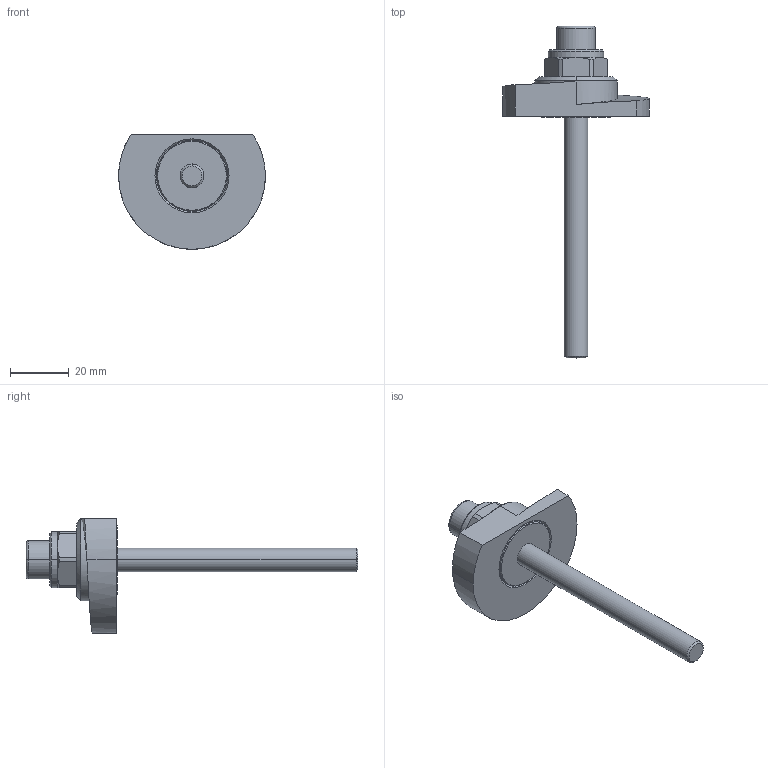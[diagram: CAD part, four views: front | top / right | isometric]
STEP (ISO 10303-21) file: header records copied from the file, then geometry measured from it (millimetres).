
FILE_DESCRIPTION (( 'STEP AP214' ), '1' );
FILE_NAME ('918.1-50-SKS-R-82.step', '2024-05-15T13:03:23', ( '' ), ( '' ), 'SwSTEP 2.0', 'SolidWorks 2022', '' );
FILE_SCHEMA (( 'AUTOMOTIVE_DESIGN' ));
Length unit declared in the file: millimetre
Products named in the file (1): 918.1-50-SKS-R-82
Bounding box: 50 x 113 x 39 mm (x, y, z)
Volume: 24213.5 mm3; surface area: 10389.1 mm2
Topology: 1 solids, 2 shells, 77 faces, 175 edges, 110 vertices
Faces by surface type: cylinder 25, plane 25, cone 22, bspline 3, torus 2
Entity records: 2547 total; most frequent: CARTESIAN_POINT 772, DIRECTION 379, ORIENTED_EDGE 350, EDGE_CURVE 175, AXIS2_PLACEMENT_3D 152, VERTEX_POINT 110, EDGE_LOOP 87, FACE_OUTER_BOUND 77
